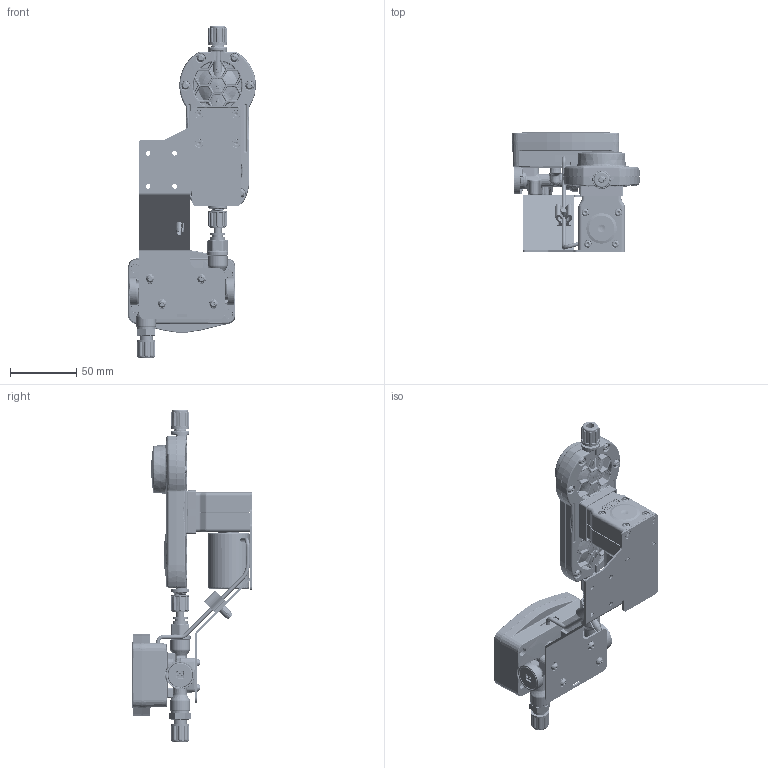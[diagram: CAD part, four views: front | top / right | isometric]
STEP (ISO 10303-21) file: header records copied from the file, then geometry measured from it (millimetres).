
FILE_DESCRIPTION((''),'2;1');
FILE_NAME('CAD1126230_ASM','2026-04-01T10:02:04',('DommenR'),('KNF Flodos AG, 6210 Sursee, Switzerland'),'CREO PARAMETRIC BY PTC INC, 2024401','CREO PARAMETRIC BY PTC INC, 2024401','');
FILE_SCHEMA(('AP242_MANAGED_MODEL_BASED_3D_ENGINEERING_MIM_LF { 1 0 10303 442 1 1 4 }'));
Products named in the file (14): FP1-70_DCB-4A; CAD1097772; CAD1169636; CAD1034334; CAD1034359; SENSOR-M_SW0001; CAD1134023; CAD1166858; CAD1120916; CAD1120918; CAD1121677; 325989; CAD1167629; CAD1126230_ASM
Assembly tree (19 placements, depth 2):
  CAD1126230_ASM
    FP1-70_DCB-4A
    CAD1097772
    CAD1169636
    CAD1034334
    CAD1034359
    SENSOR-M_SW0001
    CAD1134023
    CAD1166858
    CAD1120916
    CAD1120918
    CAD1121677  x4
    325989  x4
    CAD1167629
Bounding box: 96.54 x 91.46 x 251.1 mm (x, y, z)
Volume: 328923 mm3; surface area: 101621.3 mm2
Topology: 21 solids, 21 shells, 7135 faces, 18028 edges, 10595 vertices
Faces by surface type: cylinder 1926, bspline 1825, plane 1353, torus 1002, sphere 536, cone 486, extrusion 7
Entity records: 346610 total; most frequent: CARTESIAN_POINT 202390, ORIENTED_EDGE 32332, DIRECTION 26225, EDGE_CURVE 16166, AXIS2_PLACEMENT_3D 10850, VERTEX_POINT 9803, EDGE_LOOP 6797, FACE_OUTER_BOUND 6547
